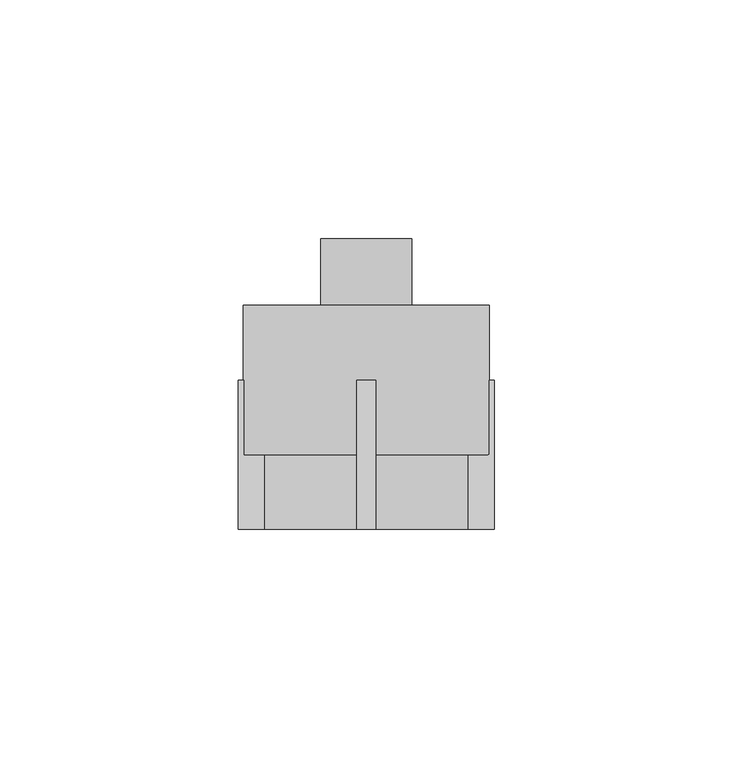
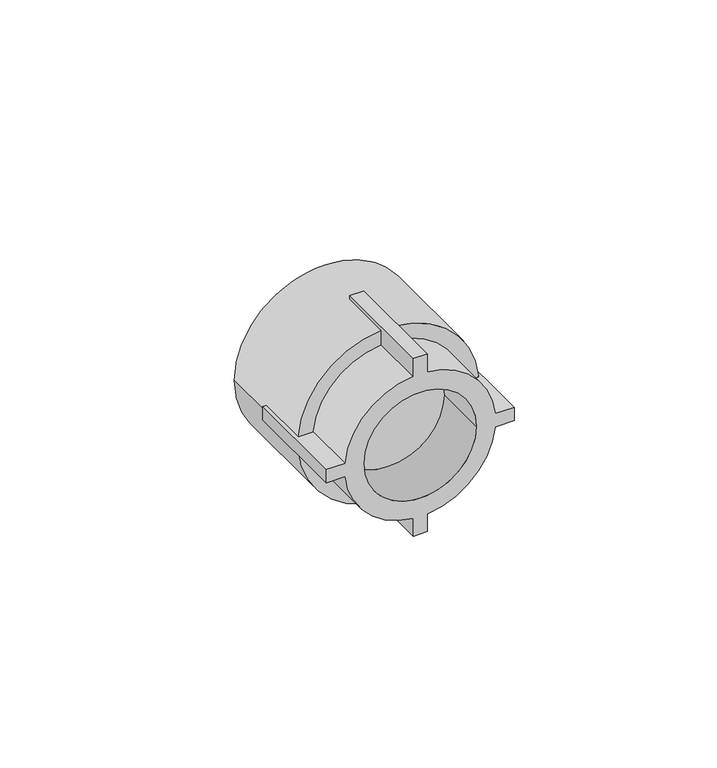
"""IFC4 building model written with IfcOpenShell, lengths in millimetres: pipe fitting geometry, EGB_VASEN_ PPR_Entronque rosca macho WXR101 : Entronque rosca macho WXR101."""

from ifc_helpers import new_model, si_unit, point, frame, origin, origin_2d, place, context, project, spatial, polyline, circle_curve, trimmed, segment, composite_curve, outline, extrude, source, transform, mapped, element, save
from ifc_brep_helpers import plane_surface, cylinder_surface, revolved_surface, advanced_brep


def pipe_fitting_d71f31c4(model_context):
    return source(origin(), model_context, "Body", "SolidModel", [
        advanced_brep(
        [(2.0, -15.6666667, 26.8), (-2.0, -15.6666667, 26.8), (-2.0, -15.6666667, 21.4067746), (-21.4067746, -15.6666667, 2.0), (-26.8, -15.6666667, 2.0), (-26.8, -15.6666667, -2.0), (-21.4067746, -15.6666667, -2.0), (-2.0, -15.6666667, -21.4067746), (-2.0, -15.6666667, -26.8), (2.0, -15.6666667, -26.8), (2.0, -15.6666667, -21.4067746), (21.4067746, -15.6666667, -2.0), (26.8, -15.6666667, -2.0), (26.8, -15.6666667, 2.0), (21.4067746, -15.6666667, 2.0), (2.0, -15.6666667, 21.4067746), (-16.0, -15.6666667, 0.0), (16.0, -15.6666667, 0.0), (-2.0, 15.6666667, 26.8), (2.0, 15.6666667, 26.8), (2.0, 15.6666667, 25.7223638), (-2.0, 15.6666667, 25.7223638), (2.0, 15.6666667, -26.8), (-2.0, 15.6666667, -26.8), (-2.0, 15.6666667, -25.7223638), (2.0, 15.6666667, -25.7223638), (26.8, 15.6666667, 2.0), (26.8, 15.6666667, -2.0), (25.7223638, 15.6666667, -2.0), (25.8, 15.6666667, 0.0), (25.7223638, 15.6666667, 2.0), (-26.8, 15.6666667, -2.0), (-26.8, 15.6666667, 2.0), (-25.7223638, 15.6666667, 2.0), (-25.8, 15.6666667, 0.0), (-25.7223638, 15.6666667, -2.0), (2.0, 0.0, 21.4067746), (2.0, 0.0, 25.7223638), (-2.0, 0.0, 25.7223638), (-2.0, 0.0, 21.4067746), (2.0, 0.0, -25.7223638), (2.0, 0.0, -21.4067746), (-2.0, 0.0, -21.4067746), (-2.0, 0.0, -25.7223638), (21.4067746, 0.0, -2.0), (25.7223638, 0.0, -2.0), (25.7223638, 0.0, 2.0), (21.4067746, 0.0, 2.0), (-25.7223638, 0.0, -2.0), (-21.4067746, 0.0, -2.0), (-21.4067746, 0.0, 2.0), (-25.7223638, 0.0, 2.0), (-16.0, 0.0, 0.0), (16.0, 0.0, 0.0), (-25.8, 31.3333333, 0.0), (25.8, 31.3333333, 0.0)],
        [
            (0, 1),
            (1, 2),
            (2, 3, circle_curve(frame((0.0, -15.6666667, 0.0), z_axis=(0.0, -1.0, 0.0), x_axis=(1.0, 0.0, 0.0)), 21.5)),
            (3, 4),
            (4, 5),
            (5, 6),
            (6, 7, circle_curve(frame((0.0, -15.6666667, 0.0), z_axis=(0.0, -1.0, 0.0), x_axis=(1.0, 0.0, 0.0)), 21.5)),
            (7, 8),
            (8, 9),
            (9, 10),
            (10, 11, circle_curve(frame((0.0, -15.6666667, 0.0), z_axis=(0.0, -1.0, 0.0), x_axis=(1.0, 0.0, 0.0)), 21.5)),
            (11, 12),
            (12, 13),
            (13, 14),
            (14, 15, circle_curve(frame((0.0, -15.6666667, 0.0), z_axis=(0.0, -1.0, 0.0), x_axis=(1.0, 0.0, 0.0)), 21.5)),
            (15, 0),
            (16, 17, circle_curve(frame((0.0, -15.6666667, 0.0), z_axis=(0.0, 1.0, 0.0), x_axis=(1.0, 0.0, 0.0)), 16.0)),
            (17, 16, circle_curve(frame((0.0, -15.6666667, 0.0), z_axis=(0.0, 1.0, 0.0), x_axis=(1.0, 0.0, 0.0)), 16.0)),
            (18, 19),
            (19, 20),
            (20, 21, circle_curve(frame((0.0, 15.6666667, 0.0), z_axis=(0.0, -1.0, 0.0), x_axis=(1.0, 0.0, 0.0)), 25.8)),
            (21, 18),
            (22, 23),
            (23, 24),
            (24, 25, circle_curve(frame((0.0, 15.6666667, 0.0), z_axis=(0.0, -1.0, 0.0), x_axis=(1.0, 0.0, 0.0)), 25.8)),
            (25, 22),
            (26, 27),
            (27, 28),
            (28, 29, circle_curve(frame((0.0, 15.6666667, 0.0), z_axis=(0.0, -1.0, 0.0), x_axis=(1.0, 0.0, 0.0)), 25.8)),
            (29, 30, circle_curve(frame((0.0, 15.6666667, 0.0), z_axis=(0.0, -1.0, 0.0), x_axis=(1.0, 0.0, 0.0)), 25.8)),
            (30, 26),
            (31, 32),
            (32, 33),
            (33, 34, circle_curve(frame((0.0, 15.6666667, 0.0), z_axis=(0.0, -1.0, 0.0), x_axis=(1.0, 0.0, 0.0)), 25.8)),
            (34, 35, circle_curve(frame((0.0, 15.6666667, 0.0), z_axis=(0.0, -1.0, 0.0), x_axis=(1.0, 0.0, 0.0)), 25.8)),
            (35, 31),
            (19, 0),
            (15, 36),
            (36, 37),
            (37, 20),
            (18, 1),
            (21, 38),
            (38, 39),
            (39, 2),
            (8, 23),
            (22, 9),
            (25, 40),
            (40, 41),
            (41, 10),
            (7, 42),
            (42, 43),
            (43, 24),
            (27, 12),
            (11, 44),
            (44, 45),
            (45, 28),
            (26, 13),
            (30, 46),
            (46, 47),
            (47, 14),
            (5, 31),
            (35, 48),
            (48, 49),
            (49, 6),
            (32, 4),
            (3, 50),
            (50, 51),
            (51, 33),
            (49, 42, circle_curve(frame((0.0, 0.0, 0.0), z_axis=(0.0, -1.0, 0.0), x_axis=(1.0, 0.0, 0.0)), 21.5)),
            (41, 44, circle_curve(frame((0.0, 0.0, 0.0), z_axis=(0.0, -1.0, 0.0), x_axis=(1.0, 0.0, 0.0)), 21.5)),
            (39, 50, circle_curve(frame((0.0, 0.0, 0.0), z_axis=(0.0, -1.0, 0.0), x_axis=(1.0, 0.0, 0.0)), 21.5)),
            (47, 36, circle_curve(frame((0.0, 0.0, 0.0), z_axis=(0.0, -1.0, 0.0), x_axis=(1.0, 0.0, 0.0)), 21.5)),
            (16, 52),
            (52, 53, circle_curve(frame((0.0, 0.0, 0.0), z_axis=(0.0, 1.0, 0.0), x_axis=(1.0, 0.0, 0.0)), 16.0)),
            (53, 17),
            (53, 52, circle_curve(frame((0.0, 0.0, 0.0), z_axis=(0.0, 1.0, 0.0), x_axis=(1.0, 0.0, 0.0)), 16.0)),
            (40, 45, circle_curve(frame((0.0, 0.0, 0.0), z_axis=(0.0, -1.0, 0.0), x_axis=(1.0, 0.0, 0.0)), 25.8)),
            (48, 43, circle_curve(frame((0.0, 0.0, 0.0), z_axis=(0.0, -1.0, 0.0), x_axis=(1.0, 0.0, 0.0)), 25.8)),
            (46, 37, circle_curve(frame((0.0, 0.0, 0.0), z_axis=(0.0, -1.0, 0.0), x_axis=(1.0, 0.0, 0.0)), 25.8)),
            (38, 51, circle_curve(frame((0.0, 0.0, 0.0), z_axis=(0.0, -1.0, 0.0), x_axis=(1.0, 0.0, 0.0)), 25.8)),
            (54, 55, circle_curve(frame((0.0, 31.3333333, 0.0), z_axis=(0.0, 1.0, 0.0), x_axis=(1.0, 0.0, 0.0)), 25.8)),
            (55, 54, circle_curve(frame((0.0, 31.3333333, 0.0), z_axis=(0.0, 1.0, 0.0), x_axis=(1.0, 0.0, 0.0)), 25.8)),
            (55, 29),
            (34, 54),
        ],
        [
            plane_surface(frame((0.0, -15.6666667, 0.0), z_axis=(0.0, -1.0, 0.0), x_axis=(0.0, 0.0, 1.0))),
            plane_surface(frame((0.0, 15.6666667, 0.0), z_axis=(0.0, 1.0, 0.0), x_axis=(0.0, 0.0, 1.0))),
            plane_surface(frame((2.0, -15.6666667, 20.5), z_axis=(1.0, 0.0, 0.0), x_axis=(0.0, 1.0, 0.0))),
            plane_surface(frame((2.0, -15.6666667, 26.8), z_axis=(0.0, 0.0, 1.0), x_axis=(0.0, 1.0, 0.0))),
            plane_surface(frame((-2.0, -15.6666667, 26.8), z_axis=(-1.0, 0.0, 0.0), x_axis=(0.0, 1.0, 0.0))),
            plane_surface(frame((-2.0, -15.6666667, -26.8), z_axis=(0.0, 0.0, -1.0), x_axis=(0.0, 1.0, 0.0))),
            plane_surface(frame((2.0, -15.6666667, -26.8), z_axis=(1.0, 0.0, 0.0), x_axis=(0.0, 1.0, 0.0))),
            plane_surface(frame((-2.0, -15.6666667, -20.5), z_axis=(-1.0, 0.0, 0.0), x_axis=(0.0, 1.0, 0.0))),
            plane_surface(frame((20.5, -15.6666667, -2.0), z_axis=(0.0, 0.0, -1.0), x_axis=(0.0, 1.0, 0.0))),
            plane_surface(frame((26.8, -15.6666667, -2.0), z_axis=(1.0, 0.0, 0.0), x_axis=(0.0, 1.0, 0.0))),
            plane_surface(frame((26.8, -15.6666667, 2.0), z_axis=(0.0, 0.0, 1.0), x_axis=(0.0, 1.0, 0.0))),
            plane_surface(frame((-26.8, -15.6666667, -2.0), z_axis=(0.0, 0.0, -1.0), x_axis=(0.0, 1.0, 0.0))),
            plane_surface(frame((-20.5, -15.6666667, 2.0), z_axis=(0.0, 0.0, 1.0), x_axis=(0.0, 1.0, 0.0))),
            plane_surface(frame((-26.8, -15.6666667, 2.0), z_axis=(-1.0, 0.0, 0.0), x_axis=(0.0, 1.0, 0.0))),
            cylinder_surface(frame((0.0, 0.0, 0.0), z_axis=(0.0, -1.0, 0.0), x_axis=(1.0, 0.0, 0.0)), 21.5),
            revolved_surface(polyline([(16.0, 0.0, 0.0), (16.0, -15.6666667, 0.0)]), (0.0, 0.0, 0.0), (0.0, 1.0, 0.0)),
            plane_surface(frame((25.8, 0.0, 0.0), z_axis=(0.0, -1.0, 0.0), x_axis=(0.0, 0.0, 1.0))),
            plane_surface(frame((25.8, 31.3333333, 0.0), z_axis=(0.0, 1.0, 0.0), x_axis=(0.0, 0.0, -1.0))),
            cylinder_surface(frame((0.0, 31.3333333, 0.0), z_axis=(0.0, -1.0, 0.0), x_axis=(1.0, 0.0, 0.0)), 25.8),
        ],
        [
            (0, [[1, 2, 3, 4, 5, 6, 7, 8, 9, 10, 11, 12, 13, 14, 15, 16], [17, 18]]),
            (1, [[19, 20, 21, 22]]),
            (1, [[23, 24, 25, 26]]),
            (1, [[27, 28, 29, 30, 31]]),
            (1, [[32, 33, 34, 35, 36]]),
            (2, [[37, -16, 38, 39, 40, -20]]),
            (3, [[-1, -37, -19, 41]]),
            (4, [[-41, -22, 42, 43, 44, -2]]),
            (5, [[-9, 45, -23, 46]]),
            (6, [[-46, -26, 47, 48, 49, -10]]),
            (7, [[-45, -8, 50, 51, 52, -24]]),
            (8, [[53, -12, 54, 55, 56, -28]]),
            (9, [[-13, -53, -27, 57]]),
            (10, [[-57, -31, 58, 59, 60, -14]]),
            (11, [[61, -36, 62, 63, 64, -6]]),
            (12, [[65, -4, 66, 67, 68, -33]]),
            (13, [[-5, -65, -32, -61]]),
            (14, [[-7, -64, 69, -50]]),
            (14, [[-11, -49, 70, -54]]),
            (14, [[-3, -44, 71, -66]]),
            (14, [[-15, -60, 72, -38]]),
            (15, [[-17, 73, 74, 75]]),
            (15, [[-18, -75, 76, -73]]),
            (16, [[-74, -76]]),
            (16, [[77, -55, -70, -48]]),
            (16, [[78, -51, -69, -63]]),
            (16, [[79, -39, -72, -59]]),
            (16, [[80, -67, -71, -43]]),
            (17, [[81, 82]]),
            (18, [[-82, 83, -29, -56, -77, -47, -25, -52, -78, -62, -35, 84]]),
            (18, [[-81, -84, -34, -68, -80, -42, -21, -40, -79, -58, -30, -83]]),
        ],
    ),
        extrude(outline(composite_curve([segment(trimmed(circle_curve(origin_2d(), 9.525), [point((0.0, -9.525))], [point((0.0, 9.525))], False, "CARTESIAN"), True, "CONTINUOUS"), segment(trimmed(circle_curve(origin_2d(), 9.525), [point((0.0, 9.525))], [point((0.0, -9.525))], False, "CARTESIAN"), True, "CONTINUOUS")], self_intersect=False)), frame((0.0, 15.6666667, 0.0), z_axis=(0.0, 1.0, 0.0), x_axis=(0.0, 0.0, 1.0)), (0.0, 0.0, 1.0), 29.6666667),
    ])


if __name__ == "__main__":
    model = new_model("IFC4")
    model_context = context("Model", 3, world=origin())
    ifc_project = project(units=[si_unit("LENGTHUNIT", "METRE", prefix="MILLI")], contexts=[model_context])
    site = spatial("IfcSite", under=ifc_project)
    building = spatial("IfcBuilding", under=site)
    placement = place(None, origin())
    pipe_fitting_shape = pipe_fitting_d71f31c4(model_context)
    element("IfcPipeFitting", 1, ObjectType="EGB_VASEN_ PPR_Entronque rosca macho WXR101 : Entronque rosca macho WXR101", at=placement, inside=building, context=model_context, shape_type="MappedRepresentation", body=[
        mapped(pipe_fitting_shape, transform((0.0, 0.0, 0.0), x_axis=(1.0, 0.0, 0.0), y_axis=(0.0, 1.0, 0.0), z_axis=(0.0, 0.0, 1.0))),
    ])
    save(model, "model.ifc")
